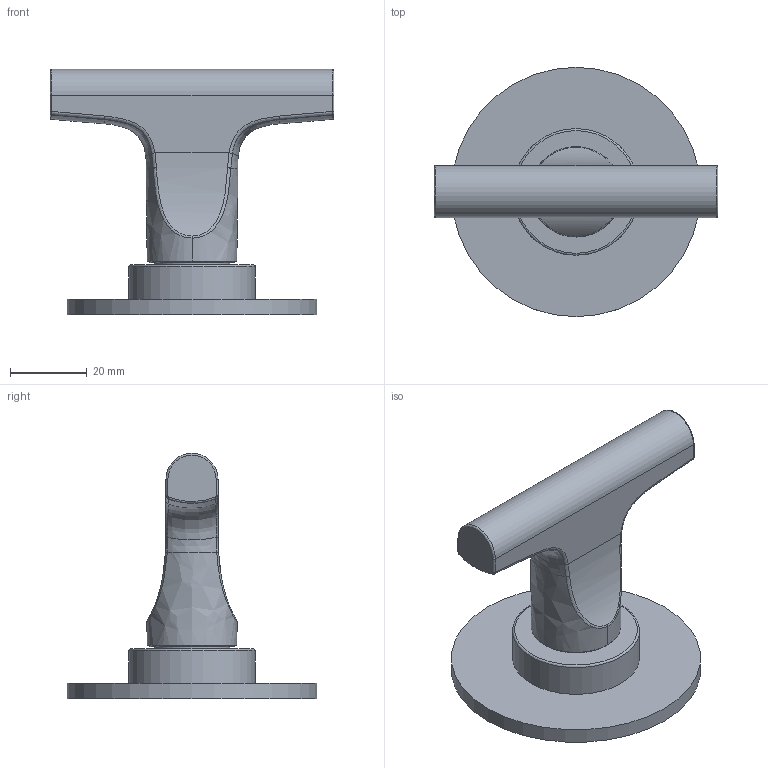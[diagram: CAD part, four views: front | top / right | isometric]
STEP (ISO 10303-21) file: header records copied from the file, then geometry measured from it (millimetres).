
FILE_DESCRIPTION(('STEP AP214'),'2;1');
FILE_NAME('DIS_3D_J276BU_D376AU.stp','2022-03-08T15:08:00',(''),(''),'2015.2.119','THINKDESIGN','');
FILE_SCHEMA(('AUTOMOTIVE_DESIGN'));
Length unit declared in the file: millimetre
Products named in the file (1): top
Bounding box: 74 x 65 x 64 mm (x, y, z)
Volume: 45625.5 mm3; surface area: 18186.2 mm2
Topology: 5 solids, 5 shells, 218 faces, 559 edges, 350 vertices
Faces by surface type: plane 99, bspline 65, cylinder 54
Full cylindrical faces by diameter (mm): 33 x1, 65 x1
Entity records: 16640 total; most frequent: CARTESIAN_POINT 7788, ORIENTED_EDGE 1110, DIRECTION 910, EDGE_CURVE 555, STYLED_ITEM 441, PRESENTATION_STYLE_ASSIGNMENT 439, SURFACE_STYLE_USAGE 439, SURFACE_SIDE_STYLE 439
